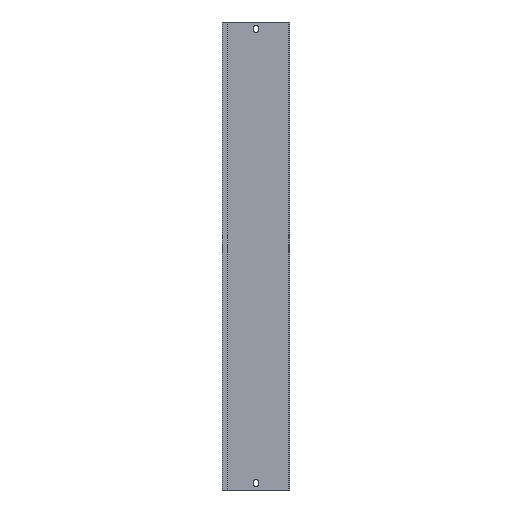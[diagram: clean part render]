
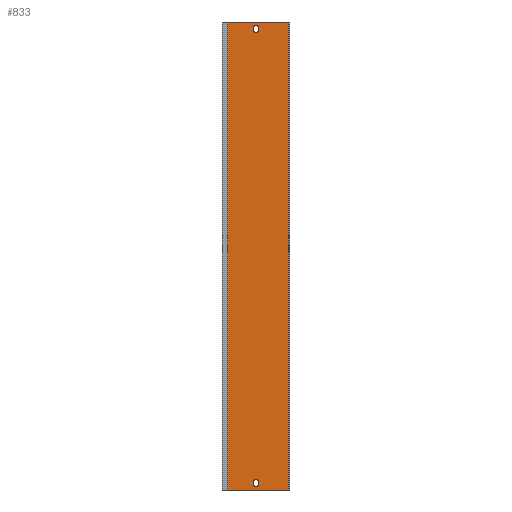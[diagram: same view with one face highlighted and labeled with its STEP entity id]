
A CAD part, front view. The second image highlights one B-rep face of the part: STEP entity #833.
In plain terms, the highlighted planar face has unit normal (0, -1, 0).
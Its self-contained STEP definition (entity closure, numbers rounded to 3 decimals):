
#11 = VERTEX_POINT ( 'NONE', #112 ) ;
#17 = EDGE_CURVE ( 'NONE', #439, #931, #639, .T. ) ;
#48 = EDGE_CURVE ( 'NONE', #765, #594, #1037, .T. ) ;
#58 = LINE ( 'NONE', #293, #981 ) ;
#59 = DIRECTION ( 'NONE',  ( 0., 0., 1. ) ) ;
#64 = LINE ( 'NONE', #1023, #676 ) ;
#67 = AXIS2_PLACEMENT_3D ( 'NONE', #921, #562, #317 ) ;
#68 = ORIENTED_EDGE ( 'NONE', *, *, #294, .T. ) ;
#78 = EDGE_CURVE ( 'NONE', #594, #178, #202, .T. ) ;
#80 = ORIENTED_EDGE ( 'NONE', *, *, #478, .T. ) ;
#87 = CARTESIAN_POINT ( 'NONE',  ( 88.5, 11., 679. ) ) ;
#88 = VERTEX_POINT ( 'NONE', #1060 ) ;
#91 = CARTESIAN_POINT ( 'NONE',  ( -8., 11., 0. ) ) ;
#101 = DIRECTION ( 'NONE',  ( 0., -1., 0. ) ) ;
#102 = VERTEX_POINT ( 'NONE', #555 ) ;
#105 = EDGE_CURVE ( 'NONE', #88, #102, #896, .T. ) ;
#112 = CARTESIAN_POINT ( 'NONE',  ( 37.5, 11., 670.5 ) ) ;
#130 = CARTESIAN_POINT ( 'NONE',  ( 44.5, 11., 11.5 ) ) ;
#138 = AXIS2_PLACEMENT_3D ( 'NONE', #528, #361, #445 ) ;
#178 = VERTEX_POINT ( 'NONE', #87 ) ;
#187 = ORIENTED_EDGE ( 'NONE', *, *, #637, .T. ) ;
#196 = ORIENTED_EDGE ( 'NONE', *, *, #971, .F. ) ;
#200 = CARTESIAN_POINT ( 'NONE',  ( 86.8, 11., 0. ) ) ;
#201 = EDGE_LOOP ( 'NONE', ( #1000, #338, #566, #899, #677, #187, #343, #584 ) ) ;
#202 = LINE ( 'NONE', #489, #568 ) ;
#203 = LINE ( 'NONE', #375, #626 ) ;
#204 = LINE ( 'NONE', #200, #842 ) ;
#218 = CARTESIAN_POINT ( 'NONE',  ( 41., 11., 8.5 ) ) ;
#228 = EDGE_CURVE ( 'NONE', #992, #11, #551, .T. ) ;
#237 = DIRECTION ( 'NONE',  ( 1., 0., 0. ) ) ;
#244 = VERTEX_POINT ( 'NONE', #1004 ) ;
#259 = VERTEX_POINT ( 'NONE', #666 ) ;
#260 = VERTEX_POINT ( 'NONE', #987 ) ;
#263 = AXIS2_PLACEMENT_3D ( 'NONE', #798, #944, #392 ) ;
#277 = EDGE_CURVE ( 'NONE', #514, #260, #839, .T. ) ;
#283 = EDGE_LOOP ( 'NONE', ( #80, #934, #340, #68, #591 ) ) ;
#293 = CARTESIAN_POINT ( 'NONE',  ( -6.5, 11., 679. ) ) ;
#294 = EDGE_CURVE ( 'NONE', #931, #514, #696, .T. ) ;
#309 = CARTESIAN_POINT ( 'NONE',  ( -8., 11., 679. ) ) ;
#311 = EDGE_CURVE ( 'NONE', #11, #768, #64, .T. ) ;
#317 = DIRECTION ( 'NONE',  ( 0., 0., 1. ) ) ;
#319 = CARTESIAN_POINT ( 'NONE',  ( -8., 11., 0. ) ) ;
#322 = DIRECTION ( 'NONE',  ( 0., 0., -1. ) ) ;
#329 = EDGE_CURVE ( 'NONE', #244, #1014, #204, .T. ) ;
#338 = ORIENTED_EDGE ( 'NONE', *, *, #329, .T. ) ;
#339 = DIRECTION ( 'NONE',  ( 1., 0., 0. ) ) ;
#340 = ORIENTED_EDGE ( 'NONE', *, *, #17, .T. ) ;
#343 = ORIENTED_EDGE ( 'NONE', *, *, #356, .F. ) ;
#346 = CARTESIAN_POINT ( 'NONE',  ( 37.5, 11., 667.5 ) ) ;
#356 = EDGE_CURVE ( 'NONE', #102, #693, #58, .T. ) ;
#361 = DIRECTION ( 'NONE',  ( 0., 1., 0. ) ) ;
#375 = CARTESIAN_POINT ( 'NONE',  ( 44.5, 11., 670.5 ) ) ;
#383 = AXIS2_PLACEMENT_3D ( 'NONE', #538, #479, #636 ) ;
#386 = DIRECTION ( 'NONE',  ( 0., 0., 1. ) ) ;
#389 = CARTESIAN_POINT ( 'NONE',  ( -4.8, 11., 679. ) ) ;
#392 = DIRECTION ( 'NONE',  ( 0., 0., -1. ) ) ;
#420 = DIRECTION ( 'NONE',  ( 0., 0., -1. ) ) ;
#439 = VERTEX_POINT ( 'NONE', #1035 ) ;
#443 = EDGE_CURVE ( 'NONE', #546, #259, #757, .T. ) ;
#445 = DIRECTION ( 'NONE',  ( 0., 0., 1. ) ) ;
#452 = CARTESIAN_POINT ( 'NONE',  ( 41., 11., 664. ) ) ;
#455 = VERTEX_POINT ( 'NONE', #1044 ) ;
#478 = EDGE_CURVE ( 'NONE', #260, #455, #930, .T. ) ;
#479 = DIRECTION ( 'NONE',  ( 0., 1., 0. ) ) ;
#489 = CARTESIAN_POINT ( 'NONE',  ( -8., 11., 679. ) ) ;
#514 = VERTEX_POINT ( 'NONE', #130 ) ;
#515 = FACE_OUTER_BOUND ( 'NONE', #201, .T. ) ;
#528 = CARTESIAN_POINT ( 'NONE',  ( -8., 11., 679. ) ) ;
#533 = VECTOR ( 'NONE', #593, 1000. ) ;
#538 = CARTESIAN_POINT ( 'NONE',  ( 41., 11., 8.5 ) ) ;
#546 = VERTEX_POINT ( 'NONE', #452 ) ;
#549 = DIRECTION ( 'NONE',  ( 0., 0., 1. ) ) ;
#550 = LINE ( 'NONE', #389, #843 ) ;
#551 = CIRCLE ( 'NONE', #777, 3.5 ) ;
#555 = CARTESIAN_POINT ( 'NONE',  ( -6.5, 11., 0. ) ) ;
#556 = CARTESIAN_POINT ( 'NONE',  ( 88.5, 11., 0. ) ) ;
#560 = DIRECTION ( 'NONE',  ( 0., 0., 1. ) ) ;
#562 = DIRECTION ( 'NONE',  ( 0., 1., 0. ) ) ;
#566 = ORIENTED_EDGE ( 'NONE', *, *, #1022, .T. ) ;
#568 = VECTOR ( 'NONE', #339, 1000. ) ;
#584 = ORIENTED_EDGE ( 'NONE', *, *, #105, .F. ) ;
#591 = ORIENTED_EDGE ( 'NONE', *, *, #277, .T. ) ;
#593 = DIRECTION ( 'NONE',  ( 0., 0., -1. ) ) ;
#594 = VERTEX_POINT ( 'NONE', #1026 ) ;
#598 = EDGE_CURVE ( 'NONE', #88, #244, #617, .T. ) ;
#600 = CARTESIAN_POINT ( 'NONE',  ( 41., 11., 670.5 ) ) ;
#603 = FACE_BOUND ( 'NONE', #283, .T. ) ;
#615 = PLANE ( 'NONE',  #138 ) ;
#617 = LINE ( 'NONE', #91, #781 ) ;
#619 = EDGE_CURVE ( 'NONE', #455, #439, #982, .T. ) ;
#626 = VECTOR ( 'NONE', #860, 1000. ) ;
#636 = DIRECTION ( 'NONE',  ( 0., 0., 1. ) ) ;
#637 = EDGE_CURVE ( 'NONE', #765, #693, #550, .T. ) ;
#639 = LINE ( 'NONE', #778, #727 ) ;
#648 = CARTESIAN_POINT ( 'NONE',  ( 41., 11., 667.5 ) ) ;
#656 = CARTESIAN_POINT ( 'NONE',  ( 44.5, 11., 670.5 ) ) ;
#657 = ORIENTED_EDGE ( 'NONE', *, *, #311, .F. ) ;
#662 = DIRECTION ( 'NONE',  ( -1., 0., 0. ) ) ;
#666 = CARTESIAN_POINT ( 'NONE',  ( 44.5, 11., 667.5 ) ) ;
#676 = VECTOR ( 'NONE', #322, 1000. ) ;
#677 = ORIENTED_EDGE ( 'NONE', *, *, #48, .F. ) ;
#693 = VERTEX_POINT ( 'NONE', #811 ) ;
#695 = FACE_BOUND ( 'NONE', #985, .T. ) ;
#696 = CIRCLE ( 'NONE', #67, 3.5 ) ;
#716 = DIRECTION ( 'NONE',  ( 0., 0., -1. ) ) ;
#722 = LINE ( 'NONE', #880, #1036 ) ;
#727 = VECTOR ( 'NONE', #386, 1000. ) ;
#747 = CARTESIAN_POINT ( 'NONE',  ( 44.5, 11., 8.5 ) ) ;
#754 = DIRECTION ( 'NONE',  ( 1., 0., 0. ) ) ;
#757 = CIRCLE ( 'NONE', #263, 3.5 ) ;
#765 = VERTEX_POINT ( 'NONE', #975 ) ;
#768 = VERTEX_POINT ( 'NONE', #346 ) ;
#777 = AXIS2_PLACEMENT_3D ( 'NONE', #600, #101, #420 ) ;
#778 = CARTESIAN_POINT ( 'NONE',  ( 37.5, 11., 8.5 ) ) ;
#780 = VECTOR ( 'NONE', #662, 1000. ) ;
#781 = VECTOR ( 'NONE', #754, 1000. ) ;
#786 = DIRECTION ( 'NONE',  ( 1., 0., 0. ) ) ;
#791 = ORIENTED_EDGE ( 'NONE', *, *, #443, .F. ) ;
#792 = CARTESIAN_POINT ( 'NONE',  ( 37.5, 11., 11.5 ) ) ;
#798 = CARTESIAN_POINT ( 'NONE',  ( 41., 11., 667.5 ) ) ;
#805 = DIRECTION ( 'NONE',  ( 0., -1., 0. ) ) ;
#811 = CARTESIAN_POINT ( 'NONE',  ( -6.5, 11., 679. ) ) ;
#824 = ORIENTED_EDGE ( 'NONE', *, *, #847, .F. ) ;
#833 = ADVANCED_FACE ( 'NONE', ( #515, #695, #603 ), #615, .F. ) ;
#839 = LINE ( 'NONE', #747, #533 ) ;
#842 = VECTOR ( 'NONE', #237, 1000. ) ;
#843 = VECTOR ( 'NONE', #1053, 1000. ) ;
#847 = EDGE_CURVE ( 'NONE', #259, #992, #203, .T. ) ;
#860 = DIRECTION ( 'NONE',  ( 0., 0., 1. ) ) ;
#880 = CARTESIAN_POINT ( 'NONE',  ( 88.5, 11., 679. ) ) ;
#883 = DIRECTION ( 'NONE',  ( 0., 1., 0. ) ) ;
#892 = VECTOR ( 'NONE', #786, 1000. ) ;
#894 = AXIS2_PLACEMENT_3D ( 'NONE', #218, #883, #59 ) ;
#895 = AXIS2_PLACEMENT_3D ( 'NONE', #648, #805, #716 ) ;
#896 = LINE ( 'NONE', #319, #780 ) ;
#899 = ORIENTED_EDGE ( 'NONE', *, *, #78, .F. ) ;
#921 = CARTESIAN_POINT ( 'NONE',  ( 41., 11., 11.5 ) ) ;
#930 = CIRCLE ( 'NONE', #383, 3.5 ) ;
#931 = VERTEX_POINT ( 'NONE', #792 ) ;
#934 = ORIENTED_EDGE ( 'NONE', *, *, #619, .T. ) ;
#944 = DIRECTION ( 'NONE',  ( 0., -1., 0. ) ) ;
#946 = ORIENTED_EDGE ( 'NONE', *, *, #228, .F. ) ;
#971 = EDGE_CURVE ( 'NONE', #768, #546, #983, .T. ) ;
#975 = CARTESIAN_POINT ( 'NONE',  ( -4.8, 11., 679. ) ) ;
#981 = VECTOR ( 'NONE', #549, 1000. ) ;
#982 = CIRCLE ( 'NONE', #894, 3.5 ) ;
#983 = CIRCLE ( 'NONE', #895, 3.5 ) ;
#985 = EDGE_LOOP ( 'NONE', ( #657, #946, #824, #791, #196 ) ) ;
#987 = CARTESIAN_POINT ( 'NONE',  ( 44.5, 11., 8.5 ) ) ;
#992 = VERTEX_POINT ( 'NONE', #656 ) ;
#1000 = ORIENTED_EDGE ( 'NONE', *, *, #598, .T. ) ;
#1004 = CARTESIAN_POINT ( 'NONE',  ( 86.8, 11., 0. ) ) ;
#1014 = VERTEX_POINT ( 'NONE', #556 ) ;
#1022 = EDGE_CURVE ( 'NONE', #1014, #178, #722, .T. ) ;
#1023 = CARTESIAN_POINT ( 'NONE',  ( 37.5, 11., 670.5 ) ) ;
#1026 = CARTESIAN_POINT ( 'NONE',  ( 86.8, 11., 679. ) ) ;
#1035 = CARTESIAN_POINT ( 'NONE',  ( 37.5, 11., 8.5 ) ) ;
#1036 = VECTOR ( 'NONE', #560, 1000. ) ;
#1037 = LINE ( 'NONE', #309, #892 ) ;
#1044 = CARTESIAN_POINT ( 'NONE',  ( 41., 11., 5. ) ) ;
#1053 = DIRECTION ( 'NONE',  ( -1., 0., 0. ) ) ;
#1060 = CARTESIAN_POINT ( 'NONE',  ( -4.8, 11., 0. ) ) ;
